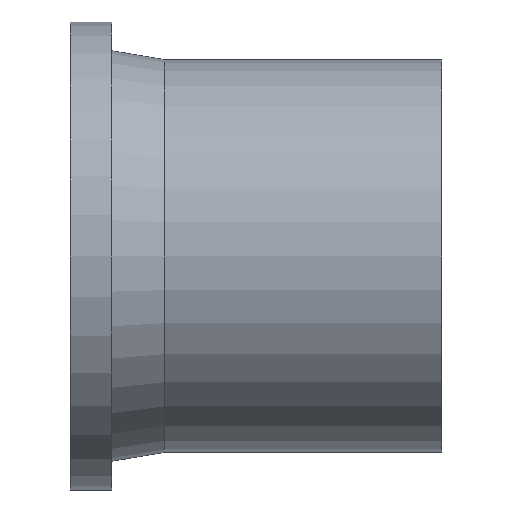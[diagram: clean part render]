
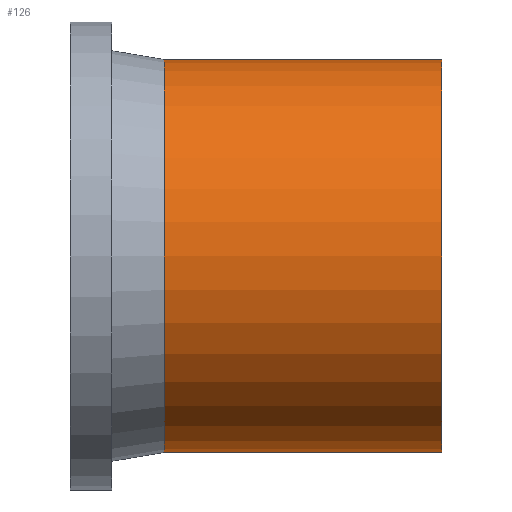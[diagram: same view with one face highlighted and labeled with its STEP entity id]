
A CAD part, front view. The second image highlights one B-rep face of the part: STEP entity #126.
In plain terms, the highlighted cylindrical face has radius 112.5 mm (diameter 225 mm), a full revolution.
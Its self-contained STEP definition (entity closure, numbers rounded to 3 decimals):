
#77=CARTESIAN_POINT('',(54.,112.5,0.));
#78=VERTEX_POINT('',#77);
#79=CARTESIAN_POINT('',(54.,0.,0.));
#80=DIRECTION('',(1.,0.,0.));
#81=DIRECTION('',(0.,1.,0.));
#82=AXIS2_PLACEMENT_3D('',#79,#80,#81);
#83=CIRCLE('',#82,112.5);
#84=EDGE_CURVE('',#78,#78,#83,.T.);
#102=CARTESIAN_POINT('',(213.,112.5,0.));
#103=VERTEX_POINT('',#102);
#104=CARTESIAN_POINT('',(213.,0.,0.));
#105=DIRECTION('',(1.,0.,0.));
#106=DIRECTION('',(0.,1.,0.));
#107=AXIS2_PLACEMENT_3D('',#104,#105,#106);
#108=CIRCLE('',#107,112.5);
#109=EDGE_CURVE('',#103,#103,#108,.T.);
#110=ORIENTED_EDGE('',*,*,#109,.F.);
#111=CARTESIAN_POINT('',(133.5,112.5,0.));
#112=DIRECTION('',(1.,0.,0.));
#113=VECTOR('',#112,112.5);
#114=LINE('',#111,#113);
#115=EDGE_CURVE('',#78,#103,#114,.T.);
#116=ORIENTED_EDGE('',*,*,#115,.F.);
#117=ORIENTED_EDGE('',*,*,#84,.T.);
#118=ORIENTED_EDGE('',*,*,#115,.T.);
#119=EDGE_LOOP('',(#110,#116,#117,#118));
#120=FACE_OUTER_BOUND('',#119,.T.);
#121=CARTESIAN_POINT('',(133.5,0.,0.));
#122=DIRECTION('',(1.,0.,0.));
#123=DIRECTION('',(0.,1.,0.));
#124=AXIS2_PLACEMENT_3D('',#121,#122,#123);
#125=CYLINDRICAL_SURFACE('',#124,112.5);
#126=ADVANCED_FACE('',(#120),#125,.T.);
